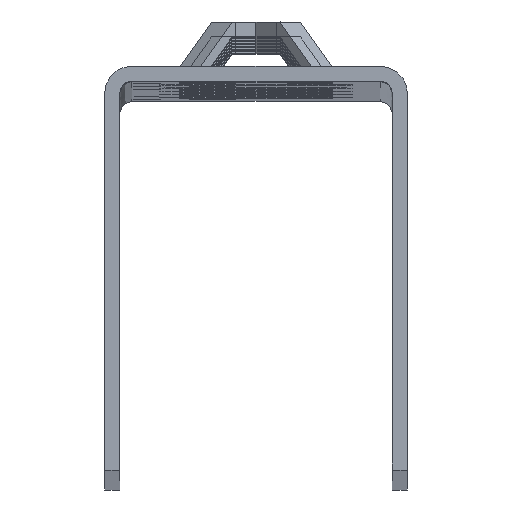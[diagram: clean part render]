
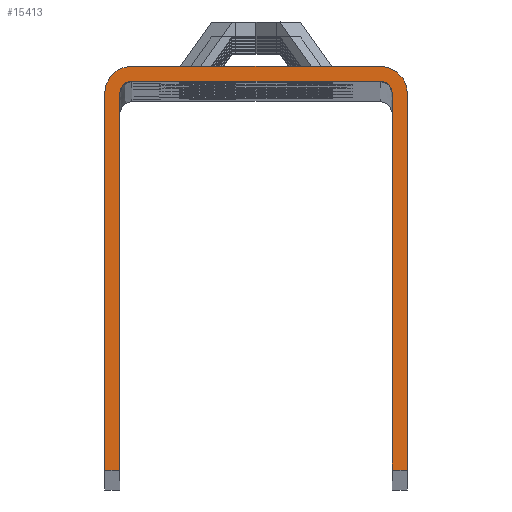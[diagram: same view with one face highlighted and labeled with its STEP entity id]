
A CAD part, top view. The second image highlights one B-rep face of the part: STEP entity #15413.
In plain terms, the highlighted free-form (B-spline) face has degree [1, 1] with [2, 2] control points.
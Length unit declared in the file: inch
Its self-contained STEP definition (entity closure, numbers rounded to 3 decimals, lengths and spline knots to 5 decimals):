
#14544=CARTESIAN_POINT('V376',(-38.51017,
   37.04271,1.80464));
#14545=VERTEX_POINT('V376',#14544);
#14551=CARTESIAN_POINT('V352',(-38.60717,
   37.04271,1.80464));
#14552=VERTEX_POINT('V352',#14551);
#14553=CARTESIAN_POINT('E786',(-38.60717,
   37.04271,1.80464));
#14554=CARTESIAN_POINT('E786',(-38.51017,
   37.04271,1.80464));
#14555=QUASI_UNIFORM_CURVE('E786',1,(#14553,#14554),.POLYLINE_FORM.,
   .F.,.U.);
#14556=EDGE_CURVE('E786',#14552,#14545,#14555,.T.);
#14571=CARTESIAN_POINT('V340',(-38.51017,
   39.49071,1.80464));
#14572=VERTEX_POINT('V340',#14571);
#14573=CARTESIAN_POINT('E570',(-38.51017,
   39.49071,1.80464));
#14574=CARTESIAN_POINT('E570',(-38.51017,
   37.04271,1.80464));
#14575=QUASI_UNIFORM_CURVE('E570',1,(#14573,#14574),.POLYLINE_FORM.,
   .F.,.U.);
#14576=EDGE_CURVE('E570',#14572,#14545,#14575,.T.);
#14668=CARTESIAN_POINT('V339',(-38.43017,
   39.57071,1.80464));
#14669=VERTEX_POINT('V339',#14668);
#14675=CARTESIAN_POINT('E531',(-38.43017,
   39.57071,1.80464));
#14676=CARTESIAN_POINT('E531',(-38.51017,
   39.57071,1.80464));
#14677=CARTESIAN_POINT('E531',(-38.51017,
   39.49071,1.80464));
#14685=(BOUNDED_CURVE()B_SPLINE_CURVE(2,(#14675,#14676,#14677),
   .CIRCULAR_ARC.,.F.,.U.)CURVE()GEOMETRIC_REPRESENTATION_ITEM()
   QUASI_UNIFORM_CURVE()RATIONAL_B_SPLINE_CURVE((1.0,
   0.707,1.0))REPRESENTATION_ITEM('E531'));
#14686=EDGE_CURVE('E531',#14669,#14572,#14685,.T.);
#14697=CARTESIAN_POINT('V373',(-36.81567,
   39.57071,1.80464));
#14698=VERTEX_POINT('V373',#14697);
#14699=CARTESIAN_POINT('E789',(-36.81567,
   39.57071,1.80464));
#14700=CARTESIAN_POINT('E789',(-38.43017,
   39.57071,1.80464));
#14701=QUASI_UNIFORM_CURVE('E789',1,(#14699,#14700),.POLYLINE_FORM.,
   .F.,.U.);
#14702=EDGE_CURVE('E789',#14698,#14669,#14701,.T.);
#15040=CARTESIAN_POINT('V372',(-36.73567,
   39.49071,1.80464));
#15041=VERTEX_POINT('V372',#15040);
#15042=CARTESIAN_POINT('E566',(-36.73567,
   39.49071,1.80464));
#15043=CARTESIAN_POINT('E566',(-36.73567,
   39.57071,1.80464));
#15044=CARTESIAN_POINT('E566',(-36.81567,
   39.57071,1.80464));
#15052=(BOUNDED_CURVE()B_SPLINE_CURVE(2,(#15042,#15043,#15044),
   .CIRCULAR_ARC.,.F.,.U.)CURVE()GEOMETRIC_REPRESENTATION_ITEM()
   QUASI_UNIFORM_CURVE()RATIONAL_B_SPLINE_CURVE((1.0,
   0.707,1.0))REPRESENTATION_ITEM('E566'));
#15053=EDGE_CURVE('E566',#15041,#14698,#15052,.T.);
#15091=CARTESIAN_POINT('V394',(-36.73567,
   37.04271,1.80464));
#15092=VERTEX_POINT('V394',#15091);
#15098=CARTESIAN_POINT('E590',(-36.73567,
   37.04271,1.80464));
#15099=CARTESIAN_POINT('E590',(-36.73567,
   39.49071,1.80464));
#15100=QUASI_UNIFORM_CURVE('E590',1,(#15098,#15099),.POLYLINE_FORM.,
   .F.,.U.);
#15101=EDGE_CURVE('E590',#15092,#15041,#15100,.T.);
#15124=CARTESIAN_POINT('V346',(-36.63867,
   37.04271,1.80464));
#15125=VERTEX_POINT('V346',#15124);
#15126=CARTESIAN_POINT('E788',(-36.73567,
   37.04271,1.80464));
#15127=CARTESIAN_POINT('E788',(-36.63867,
   37.04271,1.80464));
#15128=QUASI_UNIFORM_CURVE('E788',1,(#15126,#15127),.POLYLINE_FORM.,
   .F.,.U.);
#15129=EDGE_CURVE('E788',#15092,#15125,#15128,.T.);
#15161=CARTESIAN_POINT('V341',(-36.63867,
   39.49071,1.80464));
#15162=VERTEX_POINT('V341',#15161);
#15185=CARTESIAN_POINT('V342',(-36.81567,
   39.66771,1.80464));
#15186=VERTEX_POINT('V342',#15185);
#15192=CARTESIAN_POINT('E533',(-36.63867,
   39.49071,1.80464));
#15193=CARTESIAN_POINT('E533',(-36.63867,
   39.66771,1.80464));
#15194=CARTESIAN_POINT('E533',(-36.81567,
   39.66771,1.80464));
#15202=(BOUNDED_CURVE()B_SPLINE_CURVE(2,(#15192,#15193,#15194),
   .CIRCULAR_ARC.,.F.,.U.)CURVE()GEOMETRIC_REPRESENTATION_ITEM()
   QUASI_UNIFORM_CURVE()RATIONAL_B_SPLINE_CURVE((1.0,
   0.707,1.0))REPRESENTATION_ITEM('E533'));
#15203=EDGE_CURVE('E533',#15162,#15186,#15202,.T.);
#15214=CARTESIAN_POINT('E539',(-36.63867,
   37.04271,1.80464));
#15215=CARTESIAN_POINT('E539',(-36.63867,
   39.49071,1.80464));
#15216=QUASI_UNIFORM_CURVE('E539',1,(#15214,#15215),.POLYLINE_FORM.,
   .F.,.U.);
#15217=EDGE_CURVE('E539',#15125,#15162,#15216,.T.);
#15298=CARTESIAN_POINT('V351',(-38.60717,
   39.49071,1.80464));
#15299=VERTEX_POINT('V351',#15298);
#15305=CARTESIAN_POINT('V371',(-38.43017,
   39.66771,1.80464));
#15306=VERTEX_POINT('V371',#15305);
#15307=CARTESIAN_POINT('E565',(-38.43017,
   39.66771,1.80464));
#15308=CARTESIAN_POINT('E565',(-38.60717,
   39.66771,1.80464));
#15309=CARTESIAN_POINT('E565',(-38.60717,
   39.49071,1.80464));
#15317=(BOUNDED_CURVE()B_SPLINE_CURVE(2,(#15307,#15308,#15309),
   .CIRCULAR_ARC.,.F.,.U.)CURVE()GEOMETRIC_REPRESENTATION_ITEM()
   QUASI_UNIFORM_CURVE()RATIONAL_B_SPLINE_CURVE((1.0,
   0.707,1.0))REPRESENTATION_ITEM('E565'));
#15318=EDGE_CURVE('E565',#15306,#15299,#15317,.T.);
#15337=CARTESIAN_POINT('E544',(-38.60717,
   39.49071,1.80464));
#15338=CARTESIAN_POINT('E544',(-38.60717,
   37.04271,1.80464));
#15339=QUASI_UNIFORM_CURVE('E544',1,(#15337,#15338),.POLYLINE_FORM.,
   .F.,.U.);
#15340=EDGE_CURVE('E544',#15299,#14552,#15339,.T.);
#15390=CARTESIAN_POINT('F242',(-38.7056,
   39.79896,1.80464));
#15391=CARTESIAN_POINT('F242',(-36.54024,
   39.79896,1.80464));
#15392=CARTESIAN_POINT('F242',(-38.7056,
   36.91146,1.80464));
#15393=CARTESIAN_POINT('F242',(-36.54024,
   36.91146,1.80464));
#15394=QUASI_UNIFORM_SURFACE('F242',1,1,((#15390,#15392),(#15391,
   #15393)),.PLANE_SURF.,.F.,.F.,.U.);
#15395=ORIENTED_EDGE('E786',*,*,#14556,.T.);
#15396=ORIENTED_EDGE('E570',*,*,#14576,.F.);
#15397=ORIENTED_EDGE('E531',*,*,#14686,.F.);
#15398=ORIENTED_EDGE('E789',*,*,#14702,.F.);
#15399=ORIENTED_EDGE('E566',*,*,#15053,.F.);
#15400=ORIENTED_EDGE('E590',*,*,#15101,.F.);
#15401=ORIENTED_EDGE('E788',*,*,#15129,.T.);
#15402=ORIENTED_EDGE('E539',*,*,#15217,.T.);
#15403=ORIENTED_EDGE('F158',*,*,#15203,.T.);
#15404=CARTESIAN_POINT('E787',(-36.81567,
   39.66771,1.80464));
#15405=CARTESIAN_POINT('E787',(-38.43017,
   39.66771,1.80464));
#15406=QUASI_UNIFORM_CURVE('E787',1,(#15404,#15405),.POLYLINE_FORM.,
   .F.,.U.);
#15407=EDGE_CURVE('E787',#15186,#15306,#15406,.T.);
#15408=ORIENTED_EDGE('E787',*,*,#15407,.T.);
#15409=ORIENTED_EDGE('E565',*,*,#15318,.T.);
#15410=ORIENTED_EDGE('F160',*,*,#15340,.T.);
#15411=EDGE_LOOP('F242',(#15395,#15396,#15397,#15398,#15399,#15400,
   #15401,#15402,#15403,#15408,#15409,#15410));
#15412=FACE_OUTER_BOUND('F242',#15411,.T.);
#15413=ADVANCED_FACE('F242',(#15412),#15394,.F.);
